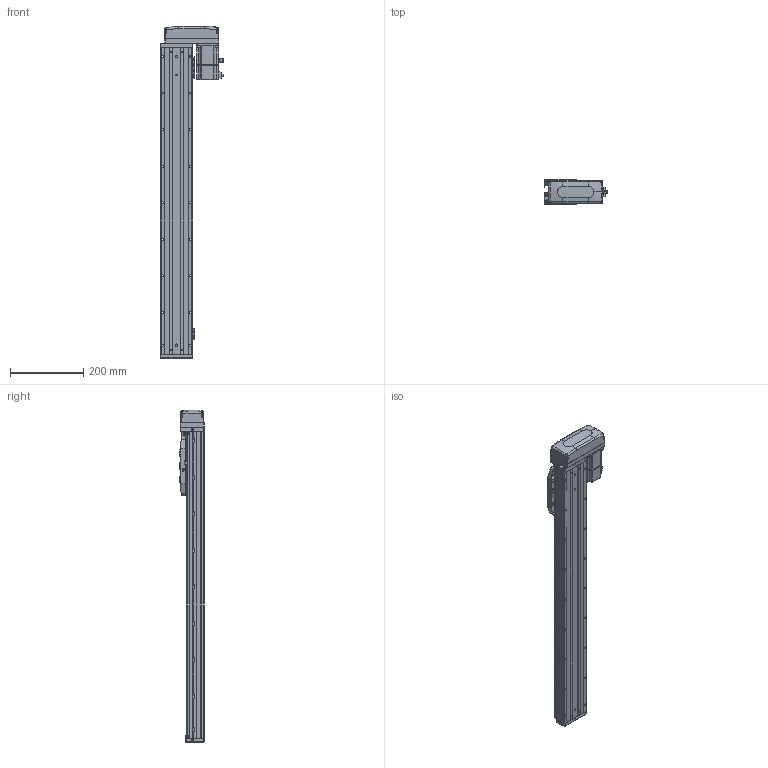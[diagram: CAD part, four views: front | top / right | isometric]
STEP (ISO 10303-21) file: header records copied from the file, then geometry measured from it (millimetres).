
FILE_DESCRIPTION (( 'STEP AP203' ), '1' );
FILE_NAME ('CTHA86-650-BL-M20-C4L.step', '2022-04-26T00:52:03', ( '微软用户' ), ( '微软中国' ), 'SwSTEP 2.0', 'SolidWorks 2020', '' );
FILE_SCHEMA (( 'CONFIG_CONTROL_DESIGN' ));
Length unit declared in the file: millimetre
Products named in the file (21): GBT 70.3-M3℅6; EE_SX911P_R; GBT 70.1-M3℅6; CTHA86-015-1_CTHA86-015-2; CTHA60-017; CTHA60-016; CTHA86-033; CTHA60-021; GBT 70.1-M3×16; _X2_4E0983F1_X0_200W_1; CTHA86-650-BL-M20-C4L; KTHA86-001_840; GBT77-2000 M3×3; CTHA86-002; KTHA86-004; GBT 70.1-M3×20; CTHA86-031; KTHA86-005; GBT70.1 M5℅16; CTHA86-030; GB¨uT 70.2-M3¡Á5_M3¡Á6
Assembly tree (66 placements, depth 2):
  CTHA86-650-BL-M20-C4L
    KTHA86-001_840
    KTHA86-004
    KTHA86-005
    GB¨uT 70.2-M3¡Á5_M3¡Á6  x10
    EE_SX911P_R  x3
    CTHA60-017  x3
    CTHA60-021  x2
    GBT77-2000 M3×3  x6
    GBT 70.1-M3×20
    GBT70.1 M5℅16  x14
    GBT 70.1-M3×16  x5
    GBT 70.1-M3℅6  x6
    CTHA60-016  x2
    _X2_4E0983F1_X0_200W_1
    CTHA86-002
    CTHA86-031
    CTHA86-030  x2
    GBT 70.3-M3℅6  x4
    CTHA86-015-1_CTHA86-015-2
    CTHA86-033
Bounding box: 172.7 x 68 x 909 mm (x, y, z)
Volume: 3580062.6 mm3; surface area: 618692.4 mm2
Topology: 68 solids, 68 shells, 2786 faces, 6652 edges, 4096 vertices
Faces by surface type: plane 1463, cylinder 723, cone 369, torus 132, bspline 75, sphere 24
Entity records: 49081 total; most frequent: CARTESIAN_POINT 9507, DIRECTION 7629, ORIENTED_EDGE 7404, EDGE_CURVE 3702, AXIS2_PLACEMENT_3D 2602, VECTOR 2425, LINE 2425, VERTEX_POINT 2328
